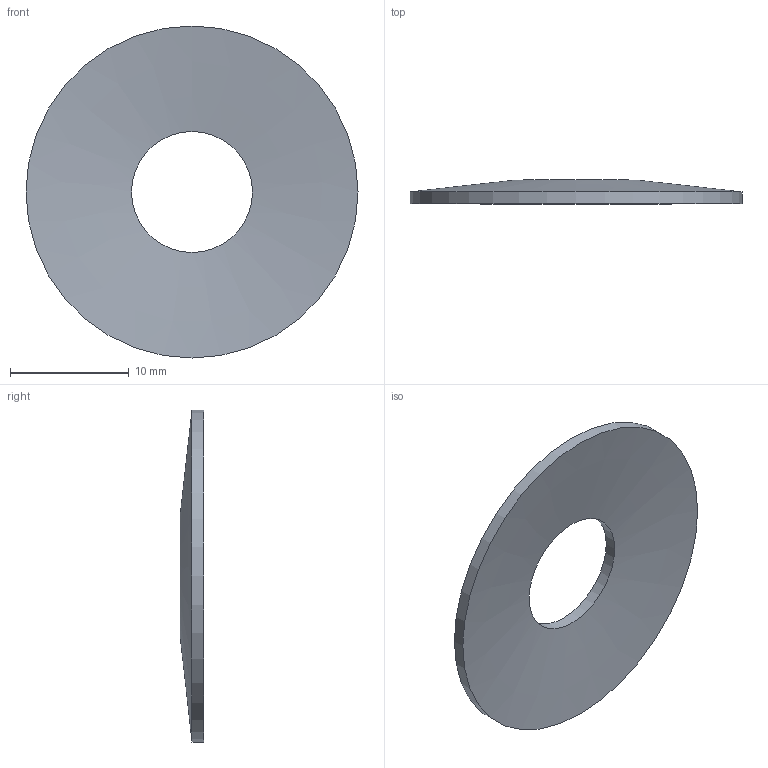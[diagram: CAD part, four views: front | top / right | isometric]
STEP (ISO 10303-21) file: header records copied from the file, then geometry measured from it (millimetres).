
FILE_DESCRIPTION(/* description */ ('1288N'),/* implementation_level */ '2;1');
FILE_NAME(/* name */ 'ST.0280.0102.0100.step',/* time_stamp */ '2026-09-18T10:28:48+02:00',/* author */ ('impex-ready.pl'),/* organization */ ('ST.0280.0102.0100'),/* preprocessor_version */ 'ST-DEVELOPER v20.1',/* originating_system */ 'Autodesk Inventor 2026',/* authorisation */ 'Ugiecie 0,75 h0 = 0.75');
FILE_SCHEMA (('AUTOMOTIVE_DESIGN { 1 0 10303 214 3 1 1 }'));
Length unit declared in the file: millimetre
Products named in the file (1): ST.0280.0102.0100
Bounding box: 28 x 2 x 28 mm (x, y, z)
Volume: 537.4 mm3; surface area: 1195.5 mm2
Topology: 1 solids, 1 shells, 4 faces, 8 edges, 4 vertices
Faces by surface type: cone 2, cylinder 2
Full cylindrical faces by diameter (mm): 10.2 x1, 28 x1
Entity records: 151 total; most frequent: DIRECTION 22, CARTESIAN_POINT 17, ORIENTED_EDGE 16, AXIS2_PLACEMENT_3D 9, EDGE_CURVE 8, FACE_OUTER_BOUND 4, EDGE_LOOP 4, LINE 4
